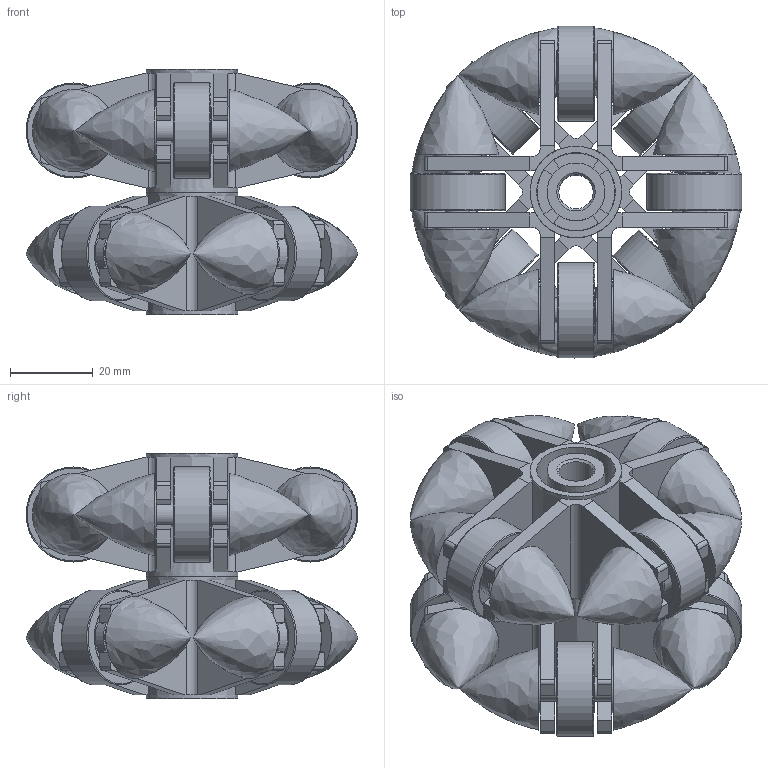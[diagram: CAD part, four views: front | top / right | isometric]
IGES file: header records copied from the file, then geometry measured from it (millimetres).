
Global section: file name: No Iges File Name specified; native system: AutoDesk Inventor R6.0; preprocessor: AutoDesk Inventor Iges Exporter R6.0; author: No Author specified; organization: No Organization specified; date: 20071209.155750; units: millimetre
Bounding box: 80.29 x 80.29 x 59.5 mm (x, y, z)
Surface area: 130294 mm2 (no closed solid volume)
Topology: 0 solids, 0 shells, 1034 faces, 4931 edges, 4716 vertices
Faces by surface type: plane 392, bspline 378, revolution 264
